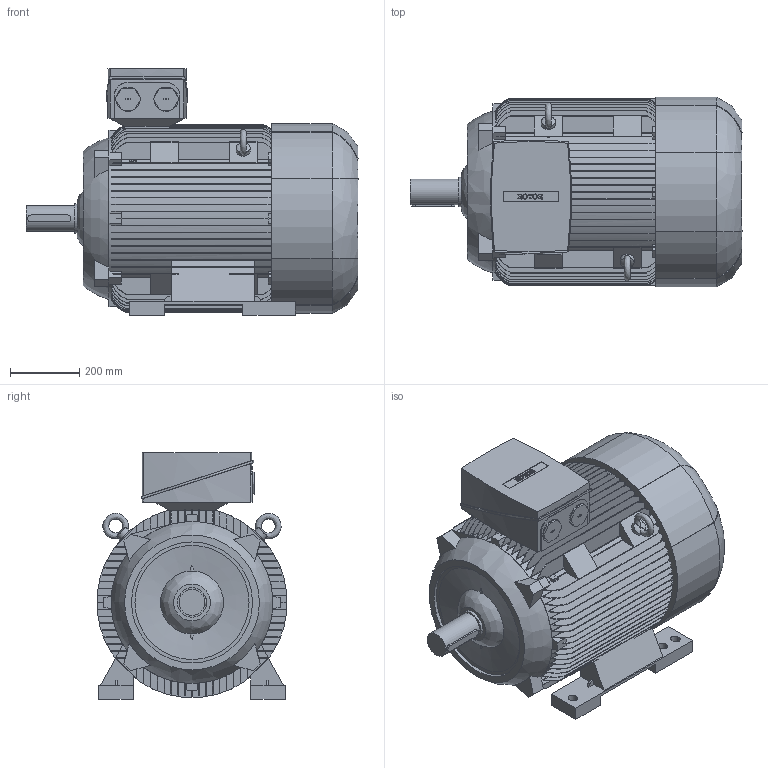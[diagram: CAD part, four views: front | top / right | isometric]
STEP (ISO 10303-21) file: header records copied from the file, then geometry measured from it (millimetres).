
FILE_DESCRIPTION (( 'STEP AP214' ), '1' );
FILE_NAME ('6RN280M04E12 IM1001.STEP', '2016-02-12T10:23:03', ( 'rotor' ), ( 'Hewlett-Packard Company' ), 'SwSTEP 2.0', 'SolidWorks 2012', '' );
FILE_SCHEMA (( 'AUTOMOTIVE_DESIGN' ));
Length unit declared in the file: millimetre
Products named in the file (1): 6RN280M04E12 IM1001
Bounding box: 960 x 548.96 x 713 mm (x, y, z)
Volume: 168324588 mm3; surface area: 4738487.6 mm2
Topology: 1 solids, 1 shells, 1035 faces, 3054 edges, 2032 vertices
Faces by surface type: plane 669, bspline 209, cylinder 152, cone 5
Full cylindrical faces by diameter (mm): 5 x1, 20 x4, 40 x2, 70 x2, 75 x1, 85 x1, 350 x1
Entity records: 54455 total; most frequent: CARTESIAN_POINT 18006, ORIENTED_EDGE 6052, DIRECTION 4702, EDGE_CURVE 3026, VERTEX_POINT 2021, LINE 1786, VECTOR 1786, AXIS2_PLACEMENT_3D 1458
